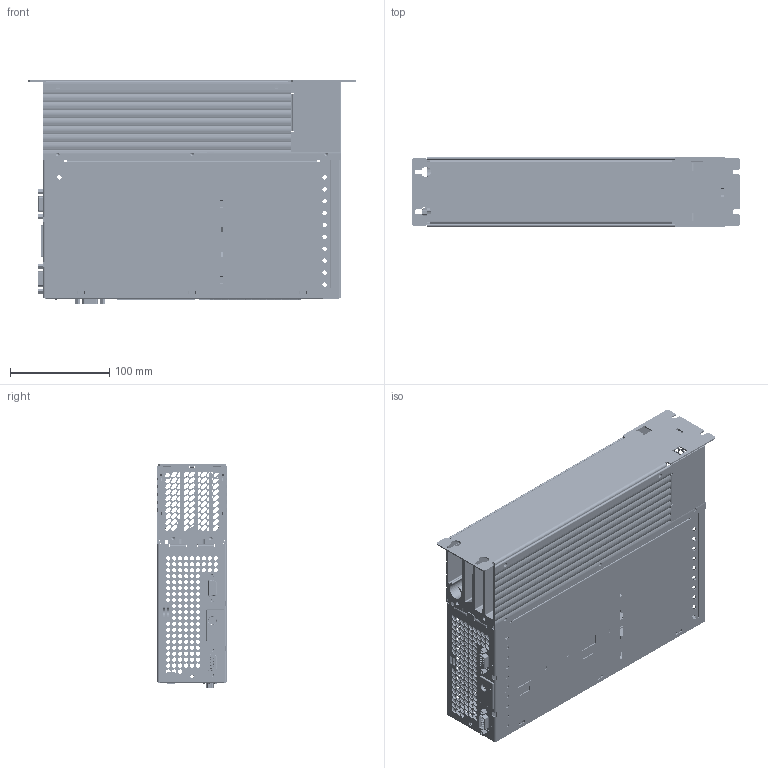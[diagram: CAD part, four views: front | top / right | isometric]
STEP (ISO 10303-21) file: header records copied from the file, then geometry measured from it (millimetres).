
FILE_DESCRIPTION (( 'STEP AP214' ), '1' );
FILE_NAME ('CDB34.008.W_34.010.W.STEP', '2010-09-20T13:28:04', ( 'Bereich' ), ( 'LTi DRiVES GmbH' ), 'SwSTEP 2.0', 'SolidWorks 2008', '' );
FILE_SCHEMA (( 'AUTOMOTIVE_DESIGN' ));
Length unit declared in the file: millimetre
Products named in the file (37): DISTANZBOLZEN 107749_Standard; MSTBA_2.5-2-G1_Standard; MSTBA_2.5-2-G(1)1_Standard; D_SUB_15POLIG_Standard; polig-Stift_Standard; mc_1_5-10-g-3_81_Standard; Steuerprint CDB-1_Standard; 1001.546.0-1_Standard; 1001.546.0-1; Codierschalter_Standard; 0931.500.0-1_Standard; D-SUB 9polig 106256-1_Standard; D-SUB 9polig 106256; Drucktaster-105902-1_Standard; Drucktaster-105902; LED_3FACH_108455-1_Standard; LED_3FACH_108455; 0892.503.0_Standard; Steuerprint_Standard; Steuerprint CDB-1; Self-clinching Nut_PMM_PEM S-M4-0 ZI--N; _U12_Standard; CDB34.008.W_34.010.W; 0892.500.0; 0931.503.0-1_Standard; 0931.503.0; Setzmutter M4_Standard; gmstba_2.5-12-g-7.62_Standard; 0892.500.0_Standard; 1001.576.0; 0892.501.0_Standard; 0892.504.0_Standard; SO-M4-8_Standard; 0892.506.0_Standard; _U12-1_Standard; 0892.504.0
Assembly tree (40 placements, depth 4):
  Steuerprint CDB-1_Standard
  0931.500.0-1_Standard
  CDB34.008.W_34.010.W
    DISTANZBOLZEN 107749_Standard  x6
    gmstba_2.5-12-g-7.62_Standard
      gmstba_2.5-12-g-7.62_Standard
    1001.576.0
      Self-clinching Nut_PMM_PEM S-M4-0 ZI--N  x4
      0892.503.0_Standard
    0892.506.0_Standard
    Steuerprint CDB-1
      mc_1_5-10-g-3_81_Standard  x2
      1001.546.0-1
        1001.546.0-1_Standard
      LED_3FACH_108455
        LED_3FACH_108455-1_Standard
      polig-Stift_Standard
      Drucktaster-105902
        Drucktaster-105902-1_Standard
      MSTBA_2.5-2-G(1)1_Standard
        MSTBA_2.5-2-G1_Standard
      Steuerprint_Standard
      Codierschalter_Standard  x2
      D_SUB_15POLIG_Standard
      D-SUB 9polig 106256
        D-SUB 9polig 106256-1_Standard
    0892.504.0
      _U12-1_Standard
    0931.503.0
      0931.503.0-1_Standard
    0892.501.0_Standard
    0892.500.0
      _U12_Standard
  Setzmutter M4_Standard
  0892.500.0_Standard
Bounding box: 330 x 70 x 224.6 mm (x, y, z)
Volume: 750675.7 mm3; surface area: 624358.3 mm2
Topology: 29 solids, 29 shells, 5764 faces, 14956 edges, 9515 vertices
Faces by surface type: plane 3502, cylinder 1050, bspline 1012, cone 166, sphere 18, torus 16
Entity records: 203470 total; most frequent: CARTESIAN_POINT 69238, ORIENTED_EDGE 23888, DIRECTION 19026, EDGE_CURVE 11944, VERTEX_POINT 7645, VECTOR 7492, LINE 7492, EDGE_LOOP 5995
